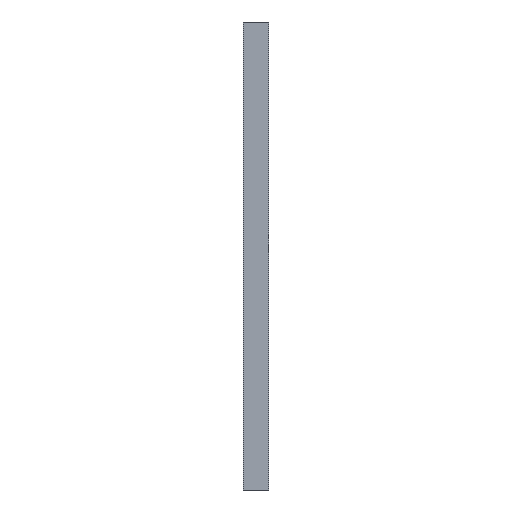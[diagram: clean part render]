
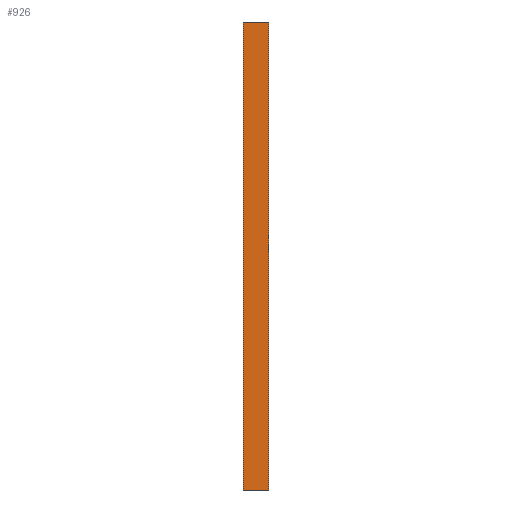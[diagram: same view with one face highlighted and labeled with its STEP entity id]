
A CAD part, left-side view. The second image highlights one B-rep face of the part: STEP entity #926.
In plain terms, the highlighted planar face has unit normal (-1, 0, 0).
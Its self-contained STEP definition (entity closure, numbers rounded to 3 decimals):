
#10 = LINE ( 'NONE', #954, #956 ) ;
#26 = EDGE_CURVE ( 'NONE', #857, #484, #744, .T. ) ;
#51 = DIRECTION ( 'NONE',  ( 0., 0., 1. ) ) ;
#120 = VERTEX_POINT ( 'NONE', #1016 ) ;
#143 = VERTEX_POINT ( 'NONE', #692 ) ;
#168 = PLANE ( 'NONE',  #1004 ) ;
#190 = EDGE_CURVE ( 'NONE', #857, #120, #1057, .T. ) ;
#212 = ORIENTED_EDGE ( 'NONE', *, *, #26, .T. ) ;
#262 = DIRECTION ( 'NONE',  ( 0., 0., 1. ) ) ;
#278 = FACE_OUTER_BOUND ( 'NONE', #678, .T. ) ;
#280 = DIRECTION ( 'NONE',  ( 0., 1., 0. ) ) ;
#313 = VECTOR ( 'NONE', #383, 1000. ) ;
#383 = DIRECTION ( 'NONE',  ( 0., 1., 0. ) ) ;
#392 = CARTESIAN_POINT ( 'NONE',  ( -167., -20., 50. ) ) ;
#417 = ORIENTED_EDGE ( 'NONE', *, *, #190, .F. ) ;
#435 = ORIENTED_EDGE ( 'NONE', *, *, #634, .T. ) ;
#454 = CARTESIAN_POINT ( 'NONE',  ( -167., -20., -315.5 ) ) ;
#484 = VERTEX_POINT ( 'NONE', #738 ) ;
#529 = VECTOR ( 'NONE', #280, 1000. ) ;
#572 = EDGE_CURVE ( 'NONE', #120, #143, #10, .T. ) ;
#592 = ORIENTED_EDGE ( 'NONE', *, *, #572, .F. ) ;
#634 = EDGE_CURVE ( 'NONE', #484, #143, #652, .T. ) ;
#652 = LINE ( 'NONE', #392, #313 ) ;
#678 = EDGE_LOOP ( 'NONE', ( #592, #417, #212, #435 ) ) ;
#680 = CARTESIAN_POINT ( 'NONE',  ( -167., -20., -315.5 ) ) ;
#692 = CARTESIAN_POINT ( 'NONE',  ( -167., 0., 50. ) ) ;
#738 = CARTESIAN_POINT ( 'NONE',  ( -167., -20., 50. ) ) ;
#744 = LINE ( 'NONE', #1103, #953 ) ;
#793 = DIRECTION ( 'NONE',  ( 0., 0., 1. ) ) ;
#857 = VERTEX_POINT ( 'NONE', #680 ) ;
#926 = ADVANCED_FACE ( 'NONE', ( #278 ), #168, .T. ) ;
#949 = DIRECTION ( 'NONE',  ( -1., 0., 0. ) ) ;
#953 = VECTOR ( 'NONE', #51, 1000. ) ;
#954 = CARTESIAN_POINT ( 'NONE',  ( -167., 0., -315.5 ) ) ;
#956 = VECTOR ( 'NONE', #262, 1000. ) ;
#964 = CARTESIAN_POINT ( 'NONE',  ( -167., -20., -315.5 ) ) ;
#1004 = AXIS2_PLACEMENT_3D ( 'NONE', #454, #949, #793 ) ;
#1016 = CARTESIAN_POINT ( 'NONE',  ( -167., 0., -315.5 ) ) ;
#1057 = LINE ( 'NONE', #964, #529 ) ;
#1103 = CARTESIAN_POINT ( 'NONE',  ( -167., -20., -315.5 ) ) ;
